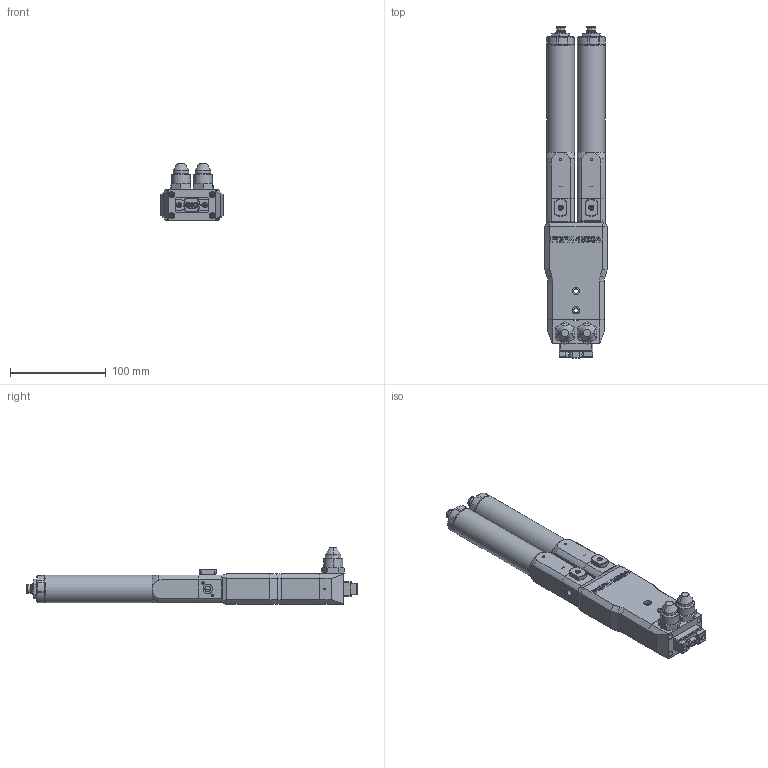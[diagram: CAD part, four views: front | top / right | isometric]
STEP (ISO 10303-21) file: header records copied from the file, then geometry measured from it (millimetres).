
FILE_DESCRIPTION (( 'STEP AP214' ), '1' );
FILE_NAME ('PDPM-1500-150BA.STEP', '2024-10-11T12:33:25', ( '' ), ( '' ), 'SwSTEP 2.0', 'SolidWorks 2024', '' );
FILE_SCHEMA (( 'AUTOMOTIVE_DESIGN' ));
Length unit declared in the file: millimetre
Products named in the file (1): PDPM-1500-150BA
Bounding box: 65 x 347 x 59.3 mm (x, y, z)
Volume: 524590.1 mm3; surface area: 122915.8 mm2
Topology: 13 solids, 13 shells, 1619 faces, 4105 edges, 2611 vertices
Faces by surface type: plane 820, cylinder 487, cone 278, bspline 16, torus 12, sphere 6
Full cylindrical faces by diameter (mm): 29 x2
Entity records: 60945 total; most frequent: CARTESIAN_POINT 22300, ORIENTED_EDGE 8124, DIRECTION 7822, EDGE_CURVE 4062, AXIS2_PLACEMENT_3D 2762, VERTEX_POINT 2610, LINE 2298, VECTOR 2298
